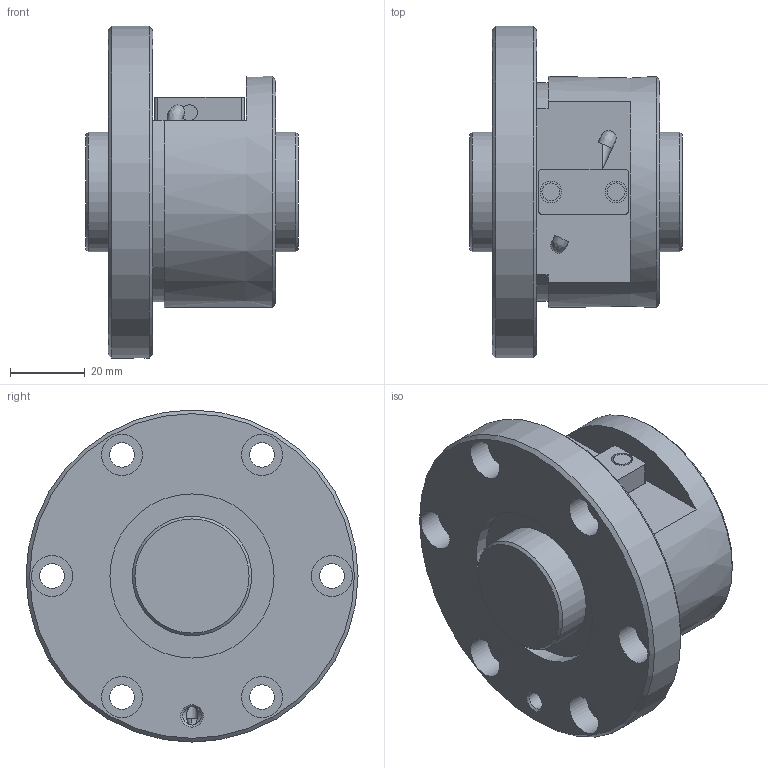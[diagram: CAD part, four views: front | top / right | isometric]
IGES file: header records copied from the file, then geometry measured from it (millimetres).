
Start section: Data from Parasolid IGES Translator 26.0.171, Copyright(c) 2006 Siemens PLM Software. All Rights Reserved.
Global section: file name: BNF3206V-2.5RRG1+57LC0_000_rev.igs; native system: By Siemens PLM Incorporated; preprocessor: XPlus GENERIC/IGES 26.0.171; author: Noname; organization: Noname; date: 20240806.073634; units: millimetre
Bounding box: 57 x 89 x 89 mm (x, y, z)
Surface area: 36030 mm2 (no closed solid volume)
Topology: 0 solids, 0 shells, 72 faces, 320 edges, 274 vertices
Faces by surface type: revolution 45, extrusion 27
